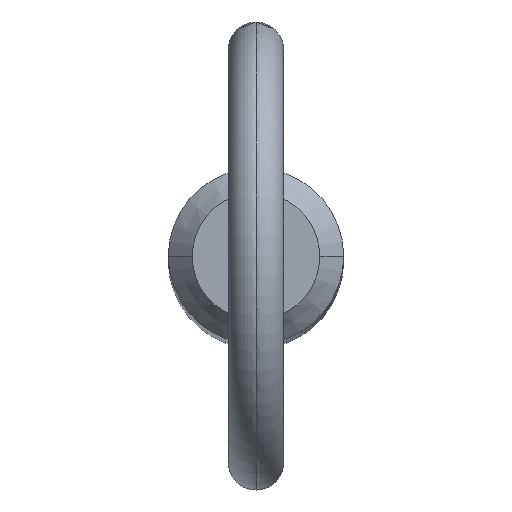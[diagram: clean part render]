
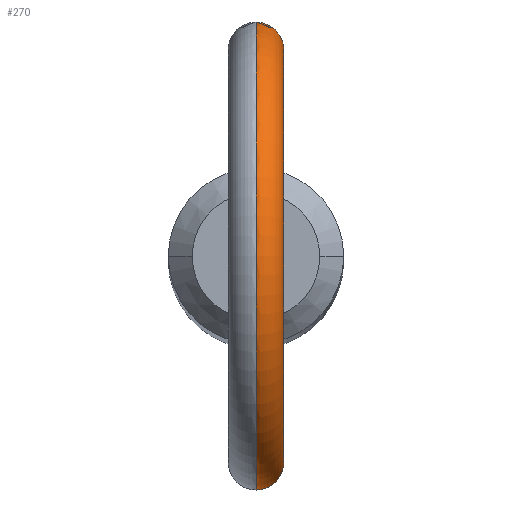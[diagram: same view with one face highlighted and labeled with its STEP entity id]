
A CAD part, top view. The second image highlights one B-rep face of the part: STEP entity #270.
In plain terms, the highlighted toroidal (fillet/blend) face has major radius 11.2 mm and minor radius 1.5 mm.
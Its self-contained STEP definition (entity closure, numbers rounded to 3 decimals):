
#7 = CARTESIAN_POINT ( 'NONE',  ( 1.385, -4.554, 128.832 ) ) ;
#18 = TOROIDAL_SURFACE ( 'NONE', #461, 11.2, 1.5 ) ;
#19 = ORIENTED_EDGE ( 'NONE', *, *, #310, .F. ) ;
#21 = CARTESIAN_POINT ( 'NONE',  ( 1.385, 4.554, 128.83 ) ) ;
#23 = CARTESIAN_POINT ( 'NONE',  ( 0.104, 4.76, 127.926 ) ) ;
#24 = CARTESIAN_POINT ( 'NONE',  ( 0.208, -4.757, 127.936 ) ) ;
#32 = CARTESIAN_POINT ( 'NONE',  ( 0., -4.76, 131.248 ) ) ;
#35 = CARTESIAN_POINT ( 'NONE',  ( 0.506, -4.734, 131.137 ) ) ;
#51 = DIRECTION ( 'NONE',  ( 1., 0., 0. ) ) ;
#52 = CARTESIAN_POINT ( 'NONE',  ( 0.207, 4.757, 127.936 ) ) ;
#57 = CIRCLE ( 'NONE', #498, 9.7 ) ;
#58 = ORIENTED_EDGE ( 'NONE', *, *, #451, .F. ) ;
#63 = CARTESIAN_POINT ( 'NONE',  ( 0.797, -4.697, 128.129 ) ) ;
#70 = CARTESIAN_POINT ( 'NONE',  ( 1.473, -4.526, 129.131 ) ) ;
#71 = CARTESIAN_POINT ( 'NONE',  ( 0.925, -4.67, 130.839 ) ) ;
#73 = ORIENTED_EDGE ( 'NONE', *, *, #79, .F. ) ;
#77 = VERTEX_POINT ( 'NONE', #178 ) ;
#79 = EDGE_CURVE ( 'NONE', #231, #262, #272, .T. ) ;
#92 = CARTESIAN_POINT ( 'NONE',  ( 1.487, 4.522, 129.753 ) ) ;
#95 = CARTESIAN_POINT ( 'NONE',  ( 1.188, 4.611, 130.527 ) ) ;
#98 = CARTESIAN_POINT ( 'NONE',  ( 1.177, 4.613, 128.475 ) ) ;
#107 = CARTESIAN_POINT ( 'NONE',  ( 0.411, -4.743, 127.977 ) ) ;
#109 = CARTESIAN_POINT ( 'NONE',  ( 1.492, -4.52, 129.648 ) ) ;
#111 = CARTESIAN_POINT ( 'NONE',  ( 0., -4.76, 131.248 ) ) ;
#115 = CARTESIAN_POINT ( 'NONE',  ( 0.997, -4.655, 130.764 ) ) ;
#132 = CARTESIAN_POINT ( 'NONE',  ( 0.512, -4.733, 128.008 ) ) ;
#133 = CARTESIAN_POINT ( 'NONE',  ( 1.508, 4.515, 129.337 ) ) ;
#142 = VERTEX_POINT ( 'NONE', #347 ) ;
#145 = EDGE_CURVE ( 'NONE', #77, #262, #400, .T. ) ;
#146 = CARTESIAN_POINT ( 'NONE',  ( 0.687, -4.711, 131.035 ) ) ;
#168 = CARTESIAN_POINT ( 'NONE',  ( 1.239, 4.596, 128.559 ) ) ;
#170 = CARTESIAN_POINT ( 'NONE',  ( 0., 4.76, 127.926 ) ) ;
#175 = CARTESIAN_POINT ( 'NONE',  ( 0., 0., 139.7 ) ) ;
#178 = CARTESIAN_POINT ( 'NONE',  ( 0., 4.76, 127.926 ) ) ;
#187 = CARTESIAN_POINT ( 'NONE',  ( 1.293, -4.582, 130.342 ) ) ;
#191 = CARTESIAN_POINT ( 'NONE',  ( 0.209, -4.756, 131.234 ) ) ;
#194 = CARTESIAN_POINT ( 'NONE',  ( 0., -4.76, 127.926 ) ) ;
#203 = CARTESIAN_POINT ( 'NONE',  ( 0.771, 4.698, 130.975 ) ) ;
#210 = DIRECTION ( 'NONE',  ( 0., 0., -1. ) ) ;
#213 = DIRECTION ( 'NONE',  ( 1., 0., 0. ) ) ;
#231 = VERTEX_POINT ( 'NONE', #111 ) ;
#233 = CARTESIAN_POINT ( 'NONE',  ( 1.45, -4.534, 129.028 ) ) ;
#238 = DIRECTION ( 'NONE',  ( 0., 0., -1. ) ) ;
#244 = CARTESIAN_POINT ( 'NONE',  ( 0.208, 4.76, 131.248 ) ) ;
#256 = CARTESIAN_POINT ( 'NONE',  ( 0., 4.76, 131.248 ) ) ;
#260 = CARTESIAN_POINT ( 'NONE',  ( 0.105, -4.76, 127.926 ) ) ;
#262 = VERTEX_POINT ( 'NONE', #194 ) ;
#263 = CARTESIAN_POINT ( 'NONE',  ( 1.178, -4.613, 128.476 ) ) ;
#270 = ADVANCED_FACE ( 'NONE', ( #520 ), #18, .T. ) ;
#272 = B_SPLINE_CURVE_WITH_KNOTS ( 'NONE', 3,
 ( #32, #525, #191, #311, #35, #146, #448, #71, #115, #404, #187, #452, #484, #350, #109, #521, #401, #70, #233, #7, #282, #317, #263, #398, #63, #132, #107, #24, #260, #304 ),
 .UNSPECIFIED., .F., .F.,
 ( 4, 2, 2, 2, 2, 2, 2, 2, 2, 2, 2, 2, 2, 2, 4 ),
 ( 0.004, 0.005, 0.005, 0.005, 0.006, 0.006, 0.007, 0.007, 0.007, 0.007, 0.008, 0.008, 0.009, 0.009, 0.009 ),
 .UNSPECIFIED. ) ;
#282 = CARTESIAN_POINT ( 'NONE',  ( 1.344, -4.567, 128.739 ) ) ;
#297 = CARTESIAN_POINT ( 'NONE',  ( 0.968, 4.663, 128.249 ) ) ;
#304 = CARTESIAN_POINT ( 'NONE',  ( 0., -4.76, 127.926 ) ) ;
#310 = EDGE_CURVE ( 'NONE', #77, #142, #360, .T. ) ;
#311 = CARTESIAN_POINT ( 'NONE',  ( 0.409, -4.743, 131.178 ) ) ;
#317 = CARTESIAN_POINT ( 'NONE',  ( 1.24, -4.596, 128.56 ) ) ;
#328 = CARTESIAN_POINT ( 'NONE',  ( 0.411, 4.743, 127.977 ) ) ;
#333 = CARTESIAN_POINT ( 'NONE',  ( 1.343, 4.567, 128.737 ) ) ;
#335 = CARTESIAN_POINT ( 'NONE',  ( 1.292, 4.582, 130.344 ) ) ;
#347 = CARTESIAN_POINT ( 'NONE',  ( 0., 4.76, 131.248 ) ) ;
#350 = CARTESIAN_POINT ( 'NONE',  ( 1.478, -4.525, 129.752 ) ) ;
#356 = CARTESIAN_POINT ( 'NONE',  ( 0., 0., 139.7 ) ) ;
#360 = B_SPLINE_CURVE_WITH_KNOTS ( 'NONE', 3,
 ( #170, #23, #52, #328, #420, #511, #297, #98, #168, #333, #21, #388, #133, #92, #466, #335, #95, #467, #386, #203, #428, #505, #244, #256 ),
 .UNSPECIFIED., .F., .F.,
 ( 4, 2, 2, 2, 2, 2, 2, 2, 2, 2, 2, 4 ),
 ( 0.001, 0.001, 0.001, 0.002, 0.002, 0.002, 0.003, 0.004, 0.004, 0.005, 0.005, 0.006 ),
 .UNSPECIFIED. ) ;
#386 = CARTESIAN_POINT ( 'NONE',  ( 0.925, 4.67, 130.84 ) ) ;
#388 = CARTESIAN_POINT ( 'NONE',  ( 1.484, 4.523, 129.128 ) ) ;
#398 = CARTESIAN_POINT ( 'NONE',  ( 0.97, -4.662, 128.25 ) ) ;
#400 = CIRCLE ( 'NONE', #438, 12.7 ) ;
#401 = CARTESIAN_POINT ( 'NONE',  ( 1.499, -4.518, 129.337 ) ) ;
#404 = CARTESIAN_POINT ( 'NONE',  ( 1.19, -4.611, 130.524 ) ) ;
#420 = CARTESIAN_POINT ( 'NONE',  ( 0.511, 4.733, 128.008 ) ) ;
#428 = CARTESIAN_POINT ( 'NONE',  ( 0.685, 4.711, 131.036 ) ) ;
#433 = DIRECTION ( 'NONE',  ( 1., 0., 0. ) ) ;
#438 = AXIS2_PLACEMENT_3D ( 'NONE', #175, #213, #210 ) ;
#448 = CARTESIAN_POINT ( 'NONE',  ( 0.77, -4.698, 130.975 ) ) ;
#451 = EDGE_CURVE ( 'NONE', #142, #231, #57, .T. ) ;
#452 = CARTESIAN_POINT ( 'NONE',  ( 1.404, -4.548, 130.053 ) ) ;
#461 = AXIS2_PLACEMENT_3D ( 'NONE', #356, #433, #475 ) ;
#463 = EDGE_LOOP ( 'NONE', ( #19, #509, #73, #58 ) ) ;
#466 = CARTESIAN_POINT ( 'NONE',  ( 1.441, 4.537, 129.959 ) ) ;
#467 = CARTESIAN_POINT ( 'NONE',  ( 0.996, 4.655, 130.766 ) ) ;
#475 = DIRECTION ( 'NONE',  ( 0., 0., -1. ) ) ;
#484 = CARTESIAN_POINT ( 'NONE',  ( 1.434, -4.539, 129.954 ) ) ;
#498 = AXIS2_PLACEMENT_3D ( 'NONE', #499, #51, #238 ) ;
#499 = CARTESIAN_POINT ( 'NONE',  ( 0., 0., 139.7 ) ) ;
#505 = CARTESIAN_POINT ( 'NONE',  ( 0.415, 4.745, 131.188 ) ) ;
#509 = ORIENTED_EDGE ( 'NONE', *, *, #145, .T. ) ;
#511 = CARTESIAN_POINT ( 'NONE',  ( 0.795, 4.697, 128.128 ) ) ;
#520 = FACE_OUTER_BOUND ( 'NONE', #463, .T. ) ;
#521 = CARTESIAN_POINT ( 'NONE',  ( 1.503, -4.517, 129.44 ) ) ;
#525 = CARTESIAN_POINT ( 'NONE',  ( 0.104, -4.76, 131.248 ) ) ;
